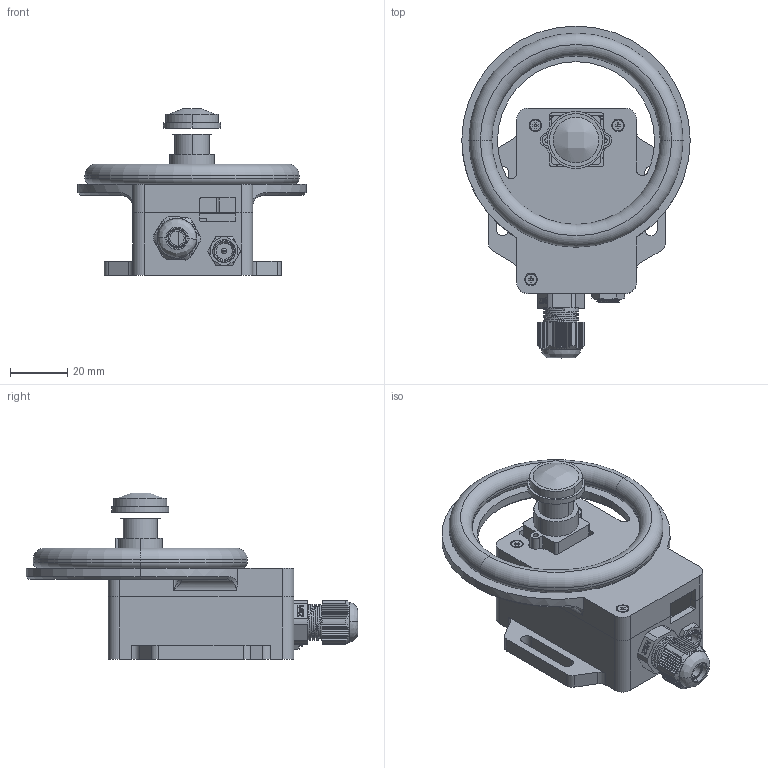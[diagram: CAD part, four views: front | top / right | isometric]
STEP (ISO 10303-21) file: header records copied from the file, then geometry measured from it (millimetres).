
FILE_DESCRIPTION (( 'STEP AP214' ), '1' );
FILE_NAME ('astornino_camera.STEP', '2024-05-02T08:30:14', ( '' ), ( '' ), 'SwSTEP 2.0', 'SolidWorks 2021', '' );
FILE_SCHEMA (( 'AUTOMOTIVE_DESIGN' ));
Length unit declared in the file: millimetre
Products named in the file (1): astornino_camera
Bounding box: 80 x 116.25 x 58.43 mm (x, y, z)
Surface area: 36904.3 mm2 (no closed solid volume)
Topology: 0 solids, 20 shells, 456 faces, 2263 edges, 1762 vertices
Faces by surface type: plane 263, cylinder 138, cone 27, bspline 20, torus 8
Entity records: 32467 total; most frequent: CARTESIAN_POINT 9515, DIRECTION 3681, ORIENTED_EDGE 3286, EDGE_CURVE 2261, VERTEX_POINT 1762, AXIS2_PLACEMENT_3D 1328, LINE 1025, VECTOR 1025
